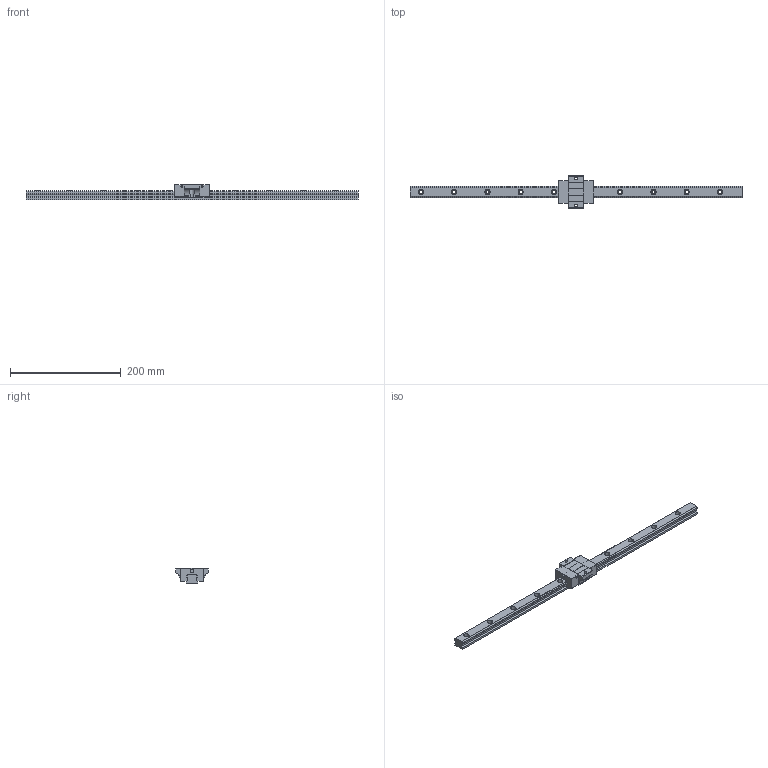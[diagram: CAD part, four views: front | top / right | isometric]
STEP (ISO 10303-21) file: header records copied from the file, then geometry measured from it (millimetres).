
FILE_DESCRIPTION (( 'STEP AP203' ), '1' );
FILE_NAME ('TRS20FS-SZ.STEP', '2024-07-11T00:56:00', ( '' ), ( '' ), 'SwSTEP 2.0', 'SolidWorks 2022', '' );
FILE_SCHEMA (( 'CONFIG_CONTROL_DESIGN' ));
Length unit declared in the file: millimetre
Products named in the file (1): TRS20FS-SZ
Bounding box: 600 x 59 x 28 mm (x, y, z)
Volume: 218608.3 mm3; surface area: 62876.5 mm2
Topology: 2 solids, 2 shells, 224 faces, 596 edges, 388 vertices
Faces by surface type: cylinder 116, plane 104, sphere 4
Entity records: 7263 total; most frequent: CARTESIAN_POINT 1421, DIRECTION 1238, ORIENTED_EDGE 1184, EDGE_CURVE 592, AXIS2_PLACEMENT_3D 441, VERTEX_POINT 388, VECTOR 356, LINE 356
